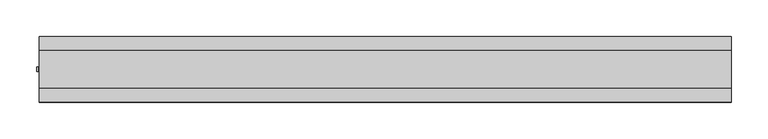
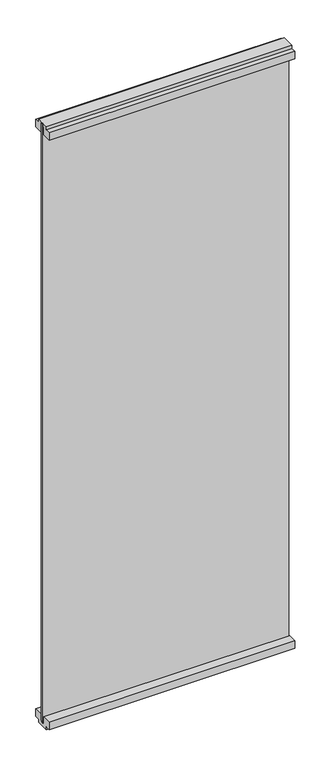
"""IFC4 building model written with IfcOpenShell, lengths in millimetres: furniture geometry, Allsteel - Aspect - Panel - 1-Way LH (11-25-24) : Allsteel - Aspect - Panel - 1-Way LH (11-25-24)."""

from ifc_helpers import new_model, si_unit, frame, origin, place, context, project, spatial, polyline, outline, extrude, source, transform, mapped, element, save


def furniture_6202537e(model_context):
    return source(origin(), model_context, "Body", "SweptSolid", [
        extrude(outline(polyline([(939.00625, 3.175), (939.00625, -3.175), (0.0, -3.175), (0.0, 3.175), (939.00625, 3.175)])), frame((0.0, 0.0, 12.7), z_axis=(0.0, 0.0, 1.0), x_axis=(1.0, 0.0, 0.0)), (0.0, 0.0, 1.0), 2413.0),
        extrude(outline(polyline([(25.4, 2438.4), (25.4, 2425.7), (44.45, 2425.7), (44.45, 2395.5375), (9.525, 2395.5375), (9.525, 2425.7), (-9.525, 2425.7), (-9.525, 2395.5375), (-44.45, 2395.5375), (-44.45, 2425.7), (-25.4, 2425.7), (-25.4, 2438.4), (25.4, 2438.4)])), frame((0.0, 0.0, 0.0), z_axis=(1.0, 0.0, 0.0), x_axis=(0.0, 1.0, 0.0)), (0.0, 0.0, 1.0), 939.00625),
        extrude(outline(polyline([(-25.4, 0.0), (-25.4, 12.7), (-44.45, 12.7), (-44.45, 42.8625), (-9.525, 42.8625), (-9.525, 12.7), (9.525, 12.7), (9.525, 42.8625), (44.45, 42.8625), (44.45, 12.7), (25.4, 12.7), (25.4, 0.0), (-25.4, 0.0)])), frame((0.0, 0.0, 0.0), z_axis=(1.0, 0.0, 0.0), x_axis=(0.0, 1.0, 0.0)), (0.0, 0.0, 1.0), 939.00625),
        extrude(outline(polyline([(-1.2847077, -2.9978967), (-3.3167077, -2.9978967), (-3.3167077, 3.3521033), (-1.2847077, 3.3521033), (-1.2847077, -2.9978967)])), frame((0.0, 0.0, 22.225), z_axis=(0.0, 0.0, 1.0), x_axis=(1.0, 0.0, 0.0)), (0.0, 0.0, 1.0), 2416.175),
    ])


if __name__ == "__main__":
    model = new_model("IFC4")
    model_context = context("Model", 3, world=origin())
    ifc_project = project(units=[si_unit("LENGTHUNIT", "METRE", prefix="MILLI")], contexts=[model_context])
    site = spatial("IfcSite", under=ifc_project)
    building = spatial("IfcBuilding", under=site)
    placement = place(None, origin())
    furniture_shape = furniture_6202537e(model_context)
    element("IfcFurniture", 1, ObjectType="Allsteel - Aspect - Panel - 1-Way LH (11-25-24) : Allsteel - Aspect - Panel - 1-Way LH (11-25-24)", at=placement, inside=building, context=model_context, shape_type="MappedRepresentation", body=[
        mapped(furniture_shape, transform((0.0, 0.0, 0.0), x_axis=(1.0, 0.0, 0.0), y_axis=(0.0, 1.0, 0.0), z_axis=(0.0, 0.0, 1.0))),
    ])
    save(model, "model.ifc")
